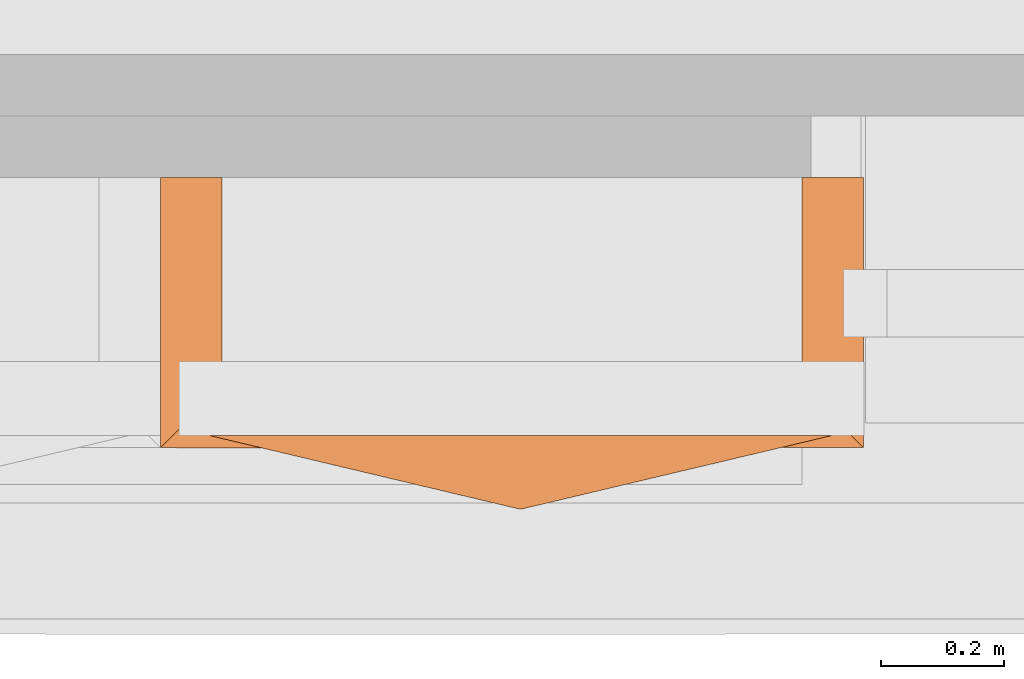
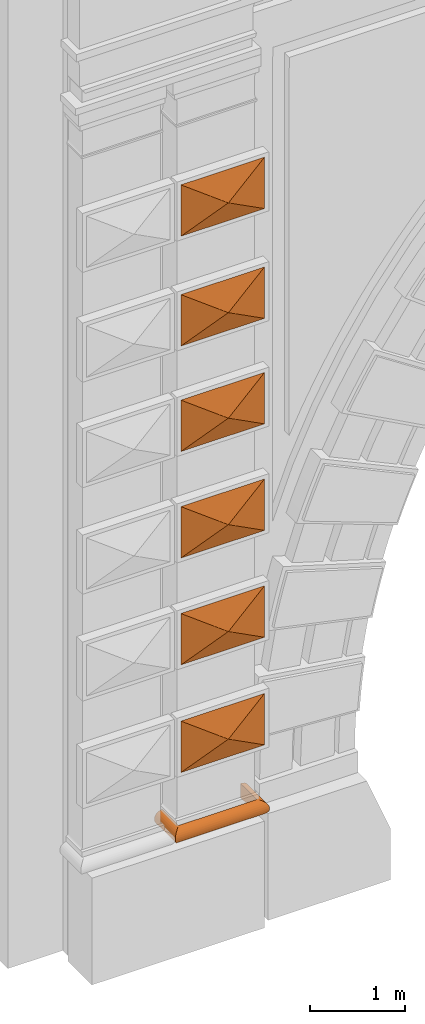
# One storey, part 19 of 44: 7 proxies.
"""IFC2X3 building model written with IfcOpenShell, lengths in metres."""

from ifc_helpers import new_model, entity, si_unit, converted_unit, derived_unit, direction, frame, origin, place, context, subcontext, project, spatial, faceted_brep, material, element, save


model = new_model("IFC2X3")

# Units and contexts
model_context = context("Model", 3, precision=1e-05, world=origin(), true_north=direction((6.12303176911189e-17, 1.0)))
body_context = subcontext(model_context, "Body", "Model", "MODEL_VIEW")
ifc_project = project(units=[si_unit("LENGTHUNIT", "METRE"), si_unit("AREAUNIT", "SQUARE_METRE"), si_unit("VOLUMEUNIT", "CUBIC_METRE"), converted_unit("PLANEANGLEUNIT", "DEGREE", entity("IfcRatioMeasure", 0.0174532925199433), si_unit("PLANEANGLEUNIT", "RADIAN"), dimensions=[0, 0, 0, 0, 0, 0, 0]), si_unit("MASSUNIT", "GRAM", prefix="KILO"), derived_unit("MASSDENSITYUNIT", [(si_unit("MASSUNIT", "GRAM", prefix="KILO"), 1), (si_unit("LENGTHUNIT", "METRE"), -3)]), si_unit("TIMEUNIT", "SECOND"), si_unit("FREQUENCYUNIT", "HERTZ"), si_unit("THERMODYNAMICTEMPERATUREUNIT", "DEGREE_CELSIUS"), derived_unit("THERMALTRANSMITTANCEUNIT", [(si_unit("MASSUNIT", "GRAM", prefix="KILO"), 1), (si_unit("THERMODYNAMICTEMPERATUREUNIT", "KELVIN"), -1), (si_unit("TIMEUNIT", "SECOND"), -3)]), derived_unit("VOLUMETRICFLOWRATEUNIT", [(si_unit("LENGTHUNIT", "METRE"), 3), (si_unit("TIMEUNIT", "SECOND"), -1)]), si_unit("ELECTRICCURRENTUNIT", "AMPERE"), si_unit("ELECTRICVOLTAGEUNIT", "VOLT"), si_unit("POWERUNIT", "WATT"), si_unit("FORCEUNIT", "NEWTON", prefix="KILO"), si_unit("ILLUMINANCEUNIT", "LUX"), si_unit("LUMINOUSFLUXUNIT", "LUMEN"), si_unit("LUMINOUSINTENSITYUNIT", "CANDELA"), derived_unit("USERDEFINED", [(si_unit("MASSUNIT", "GRAM", prefix="KILO"), -1), (si_unit("LENGTHUNIT", "METRE"), -2), (si_unit("TIMEUNIT", "SECOND"), 3), (si_unit("LUMINOUSFLUXUNIT", "LUMEN"), 1)]), derived_unit("LINEARVELOCITYUNIT", [(si_unit("LENGTHUNIT", "METRE"), 1), (si_unit("TIMEUNIT", "SECOND"), -1)]), si_unit("PRESSUREUNIT", "PASCAL"), derived_unit("USERDEFINED", [(si_unit("LENGTHUNIT", "METRE"), -2), (si_unit("MASSUNIT", "GRAM", prefix="KILO"), 1), (si_unit("TIMEUNIT", "SECOND"), -2)])], contexts=[model_context])

# Site, building, storey
site_placement = place(None, origin())
site = spatial("IfcSite", under=ifc_project, at=site_placement, Name="Default", CompositionType="ELEMENT")
building_placement = place(site_placement, origin())
building = spatial("IfcBuilding", under=site, at=building_placement, CompositionType="ELEMENT")
storey_placement = place(building_placement, origin())
storey = spatial("IfcBuildingStorey", under=building, at=storey_placement, Name="Livello 1", CompositionType="ELEMENT", Elevation=0.0)

# Proxies
ifc_material_1 = material(Name="Travertino")
proxy_1_placement = place(storey_placement, frame((-10.4637663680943, -0.776050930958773, 1.36642590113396)))
element("IfcBuildingElementProxy", 1, at=proxy_1_placement, inside=storey, material=ifc_material_1, Name="Stratigrafia", context=body_context, shape_type="Brep", body=[
    faceted_brep([(0.07821631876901, 0.441583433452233, 0.00192470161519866), (0.0557157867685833, 0.441583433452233, 0.00823791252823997), (0.0355879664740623, 0.441583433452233, 0.0201123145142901), (0.0191801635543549, 0.441583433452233, 0.0367530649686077), (0.0075906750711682, 0.441583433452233, 0.0570462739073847), (0.00159527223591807, 0.441583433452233, 0.0796335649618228), (0.00159527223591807, 0.441583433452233, 0.103003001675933), (0.00759067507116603, 0.441583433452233, 0.125590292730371), (0.0191801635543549, 0.441583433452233, 0.145883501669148), (0.0355879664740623, 0.441583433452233, 0.162524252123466), (0.0557157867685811, 0.441583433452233, 0.174398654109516), (0.07821631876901, 0.441583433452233, 0.180711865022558), (0.101583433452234, 0.441583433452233, 0.181041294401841), (0.101583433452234, 0.441583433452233, 0.0015952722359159), (1.04559604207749, 0.441583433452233, 0.0015952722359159), (1.04559604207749, 0.441583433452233, 0.181041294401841), (1.06896315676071, 0.441583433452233, 0.180711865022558), (1.09146368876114, 0.441583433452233, 0.174398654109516), (1.11159150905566, 0.441583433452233, 0.162524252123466), (1.12799931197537, 0.441583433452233, 0.145883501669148), (1.13958880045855, 0.441583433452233, 0.125590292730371), (1.1455842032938, 0.441583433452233, 0.103003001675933), (1.1455842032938, 0.441583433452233, 0.0796335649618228), (1.13958880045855, 0.441583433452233, 0.0570462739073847), (1.12799931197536, 0.441583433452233, 0.0367530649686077), (1.11159150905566, 0.441583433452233, 0.0201123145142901), (1.09146368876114, 0.441583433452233, 0.00823791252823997), (1.06896315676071, 0.441583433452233, 0.00192470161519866), (0.101583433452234, 0.101583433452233, 0.181041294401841), (0.101583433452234, 0.101583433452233, 0.0015952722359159), (0.07821631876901, 0.0782163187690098, 0.00192470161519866), (0.0557157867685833, 0.0557157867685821, 0.00823791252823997), (0.0191801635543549, 0.0191801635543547, 0.0367530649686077), (0.0075906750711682, 0.00759067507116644, 0.0570462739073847), (0.0355879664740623, 0.0355879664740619, 0.0201123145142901), (0.00159527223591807, 0.00159527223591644, 0.0796335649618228), (0.00159527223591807, 0.00159527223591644, 0.103003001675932), (0.00759067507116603, 0.00759067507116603, 0.12559029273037), (0.0191801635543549, 0.0191801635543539, 0.145883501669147), (0.0355879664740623, 0.0355879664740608, 0.162524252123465), (0.0557157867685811, 0.0557157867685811, 0.174398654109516), (0.07821631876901, 0.0782163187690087, 0.180711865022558), (0.551583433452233, 0.101583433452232, 0.181041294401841), (1.00158343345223, 0.101583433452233, 0.181041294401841), (1.04559604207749, 0.101583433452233, 0.181041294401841), (1.04559604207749, 0.101583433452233, 0.0015952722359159), (1.00158343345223, 0.101583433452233, 0.0015952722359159), (0.55158299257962, 0.101583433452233, 0.0015952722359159), (0.632481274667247, 0.0839762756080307, 0.00127843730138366), (1.00158343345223, 0.0782163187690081, 0.180711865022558), (0.448867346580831, 0.0841064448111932, 0.18136842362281), (0.539899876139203, 0.0667610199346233, 0.178286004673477), (0.539899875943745, 0.0667610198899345, 0.00435056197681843), (1.00158343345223, 0.07821631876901, 0.00192470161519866), (1.00158343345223, 0.0557157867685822, 0.00823791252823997), (0.518585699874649, 0.0268436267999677, 0.0278998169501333), (1.00158343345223, 0.0191801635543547, 0.0367530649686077), (0.560796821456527, 0.0127263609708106, 0.0465232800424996), (1.00158343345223, 0.035587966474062, 0.0201123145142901), (0.518585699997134, 0.026843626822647, 0.154736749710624), (1.00158343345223, 0.0355879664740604, 0.162524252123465), (0.56225355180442, 0.0452662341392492, 0.169115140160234), (0.562253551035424, 0.0452662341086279, 0.0135214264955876), (1.00158343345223, 0.00759067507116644, 0.0570462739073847), (1.00158343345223, 0.00159527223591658, 0.0796335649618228), (0.504587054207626, 0.00385941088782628, 0.0681452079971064), (1.00158343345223, 0.00159527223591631, 0.103003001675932), (0.559410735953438, 0.000836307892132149, 0.0913182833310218), (0.504587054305, 0.00385941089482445, 0.114491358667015), (1.00158343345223, 0.0191801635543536, 0.145883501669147), (0.560796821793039, 0.0127263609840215, 0.136113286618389), (1.00158343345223, 0.00759067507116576, 0.12559029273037), (1.00158343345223, 0.0557157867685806, 0.174398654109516), (1.06896315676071, 0.0782163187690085, 0.180711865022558), (1.06896315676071, 0.0782163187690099, 0.00192470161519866), (1.09146368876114, 0.0557157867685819, 0.00823791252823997), (1.12799931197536, 0.0191801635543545, 0.0367530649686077), (1.13958880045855, 0.00759067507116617, 0.0570462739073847), (1.11159150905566, 0.0355879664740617, 0.0201123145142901), (1.1455842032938, 0.00159527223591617, 0.0796335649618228), (1.1455842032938, 0.00159527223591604, 0.103003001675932), (1.13958880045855, 0.00759067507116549, 0.12559029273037), (1.12799931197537, 0.0191801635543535, 0.145883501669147), (1.11159150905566, 0.0355879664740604, 0.162524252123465), (1.09146368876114, 0.0557157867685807, 0.174398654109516)], [[[0, 1, 2, 3, 4, 5, 6, 7, 8, 9, 10, 11, 12, 13]], [[14, 15, 16, 17, 18, 19, 20, 21, 22, 23, 24, 25, 26, 27]], [[13, 12, 28, 29]], [[30, 0, 13, 29]], [[31, 1, 0, 30]], [[32, 33, 4, 3]], [[3, 2, 34, 32]], [[34, 2, 1, 31]], [[35, 5, 4, 33]], [[35, 36, 6, 5]], [[6, 36, 37, 7]], [[38, 8, 7, 37]], [[9, 39, 40, 10]], [[40, 41, 11, 10]], [[39, 9, 8, 38]], [[11, 41, 28, 12]], [[29, 28, 42, 43, 44, 45, 46, 47]], [[48, 30, 29]], [[49, 50, 51]], [[46, 48, 29, 47]], [[52, 53, 54]], [[55, 56, 57]], [[42, 50, 49]], [[58, 56, 55]], [[59, 60, 61]], [[62, 52, 54]], [[40, 61, 51]], [[30, 48, 52]], [[63, 64, 65]], [[58, 55, 62]], [[48, 53, 52]], [[35, 33, 65]], [[64, 66, 67]], [[36, 68, 37]], [[34, 31, 62]], [[32, 34, 55]], [[32, 55, 57]], [[52, 62, 31]], [[56, 63, 57]], [[57, 33, 32]], [[69, 59, 70]], [[35, 65, 67]], [[28, 50, 42]], [[68, 66, 71]], [[53, 48, 46]], [[69, 70, 71]], [[72, 49, 51]], [[63, 65, 57]], [[61, 60, 72]], [[38, 70, 59]], [[59, 69, 60]], [[57, 65, 33]], [[68, 71, 70]], [[42, 49, 73, 44, 43]], [[67, 36, 35]], [[37, 68, 70]], [[54, 58, 62]], [[38, 59, 39]], [[66, 68, 67]], [[39, 59, 61]], [[50, 28, 41]], [[70, 38, 37]], [[40, 51, 41]], [[61, 40, 39]], [[51, 50, 41]], [[31, 30, 52]], [[36, 67, 68]], [[64, 67, 65]], [[62, 55, 34]], [[72, 51, 61]], [[74, 53, 46, 45]], [[75, 54, 53, 74]], [[76, 77, 63, 56]], [[56, 58, 78, 76]], [[78, 58, 54, 75]], [[79, 64, 63, 77]], [[79, 80, 66, 64]], [[66, 80, 81, 71]], [[82, 69, 71, 81]], [[60, 83, 84, 72]], [[84, 73, 49, 72]], [[83, 60, 69, 82]], [[45, 44, 15, 14]], [[45, 14, 27, 74]], [[26, 75, 74, 27]], [[24, 23, 77, 76]], [[78, 25, 24, 76]], [[75, 26, 25, 78]], [[77, 23, 22, 79]], [[22, 21, 80, 79]], [[81, 80, 21, 20]], [[19, 82, 81, 20]], [[17, 16, 73, 84]], [[84, 83, 18, 17]], [[83, 82, 19, 18]], [[44, 73, 16, 15]]]),
])
ifc_material_2 = material(Name="Piperno")
proxy_2_placement = place(storey_placement, frame((-10.3830724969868, -0.87446749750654, 2.27958831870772)))
element("IfcBuildingElementProxy", 2, at=proxy_2_placement, inside=storey, material=ifc_material_2, Name="Stratigrafia", context=body_context, shape_type="Brep", body=[
    faceted_brep([(0.505641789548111, 0.0, 0.323456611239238), (0.505993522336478, 0.0, 0.32310487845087), (0.506345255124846, 0.0, 0.322753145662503), (0.506683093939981, 0.0, 0.322415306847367), (0.507203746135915, 0.0, 0.322935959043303), (0.507372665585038, 0.0, 0.323104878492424), (0.507724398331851, 0.0, 0.323456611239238), (0.507263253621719, 0.0, 0.323917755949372), (0.506683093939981, 0.0, 0.324497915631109), (0.506162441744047, 0.0, 0.323977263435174), (1.01413065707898, 0.12, 0.0), (0.842853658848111, 0.12, 0.0), (0.760597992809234, 0.12, 0.0), (0.507065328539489, 0.12, 0.0), (0.253532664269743, 0.12, 0.0), (0.171276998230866, 0.12, 0.0), (0.0, 0.12, 0.0), (0.0, 0.12, 0.65945975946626), (0.253532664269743, 0.12, 0.65945975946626), (0.507065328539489, 0.12, 0.65945975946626), (0.760597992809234, 0.12, 0.65945975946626), (1.01413065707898, 0.12, 0.65945975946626), (0.672736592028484, 0.0624385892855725, 0.498562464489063), (0.570456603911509, 0.0600000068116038, 0.49193922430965), (0.468888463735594, 0.0599999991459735, 0.491964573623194), (0.302298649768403, 0.048257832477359, 0.458579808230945), (0.810480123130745, 0.0717421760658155, 0.524336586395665), (0.374588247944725, 0.0600000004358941, 0.491814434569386), (0.198208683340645, 0.0729606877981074, 0.126793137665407), (0.465615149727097, 0.0600000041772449, 0.161224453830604), (0.546734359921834, 0.059999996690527, 0.161223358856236), (0.396548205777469, 0.0569466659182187, 0.169546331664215), (0.691854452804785, 0.0603313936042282, 0.160617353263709), (0.618950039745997, 0.0600000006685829, 0.161327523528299), (0.327782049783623, 0.0576525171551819, 0.167835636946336), (0.706232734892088, 0.0470393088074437, 0.196663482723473)], [[[0, 1, 2, 3, 4, 5, 6, 7, 8, 9]], [[10, 11, 12, 13, 14, 15, 16, 17, 18, 19, 20, 21]], [[22, 21, 20]], [[23, 20, 19]], [[24, 8, 23]], [[9, 25, 0]], [[24, 23, 19]], [[6, 26, 21, 22]], [[20, 23, 22]], [[7, 23, 8]], [[27, 9, 24]], [[24, 18, 27]], [[24, 19, 18]], [[23, 7, 22]], [[9, 8, 24]], [[17, 25, 27]], [[6, 22, 7]], [[17, 27, 18]], [[25, 9, 27]], [[25, 17, 16, 28, 0]], [[29, 13, 30]], [[2, 31, 29]], [[32, 33, 11]], [[30, 33, 4]], [[32, 5, 33]], [[3, 2, 29]], [[3, 29, 30]], [[14, 31, 15]], [[28, 16, 15]], [[14, 13, 29]], [[12, 30, 13]], [[4, 3, 30]], [[29, 31, 14]], [[2, 1, 31]], [[34, 15, 31]], [[28, 34, 0]], [[34, 31, 1]], [[0, 34, 1]], [[15, 34, 28]], [[32, 10, 35]], [[30, 12, 33]], [[12, 11, 33]], [[35, 6, 5]], [[4, 33, 5]], [[10, 32, 11]], [[5, 32, 35]], [[10, 21, 26, 6, 35]]]),
])
proxy_3_placement = place(storey_placement, frame((-10.3830724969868, -0.87446749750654, 3.65810765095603)))
element("IfcBuildingElementProxy", 3, at=proxy_3_placement, inside=storey, material=ifc_material_2, Name="Stratigrafia", context=body_context, shape_type="Brep", body=[
    faceted_brep([(0.505641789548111, 0.0, 0.323456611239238), (0.505993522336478, 0.0, 0.323104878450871), (0.506345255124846, 0.0, 0.322753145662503), (0.506683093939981, 0.0, 0.322415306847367), (0.507203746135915, 0.0, 0.322935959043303), (0.507372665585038, 0.0, 0.323104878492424), (0.507724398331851, 0.0, 0.323456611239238), (0.507263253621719, 0.0, 0.323917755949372), (0.506683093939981, 0.0, 0.324497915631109), (0.506162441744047, 0.0, 0.323977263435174), (1.01413065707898, 0.12, 0.0), (0.842853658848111, 0.12, 0.0), (0.760597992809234, 0.12, 0.0), (0.507065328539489, 0.12, 0.0), (0.253532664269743, 0.12, 0.0), (0.171276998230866, 0.12, 0.0), (0.0, 0.12, 0.0), (0.0, 0.12, 0.65945975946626), (0.253532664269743, 0.12, 0.65945975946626), (0.507065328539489, 0.12, 0.65945975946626), (0.760597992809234, 0.12, 0.65945975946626), (1.01413065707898, 0.12, 0.65945975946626), (0.672736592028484, 0.0624385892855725, 0.498562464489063), (0.570456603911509, 0.0600000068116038, 0.49193922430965), (0.468888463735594, 0.0599999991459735, 0.491964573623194), (0.302298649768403, 0.048257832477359, 0.458579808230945), (0.810480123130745, 0.0717421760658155, 0.524336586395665), (0.374588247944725, 0.0600000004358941, 0.491814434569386), (0.198208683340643, 0.0729606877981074, 0.126793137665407), (0.465615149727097, 0.0600000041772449, 0.161224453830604), (0.546734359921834, 0.059999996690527, 0.161223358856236), (0.396548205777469, 0.0569466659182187, 0.169546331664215), (0.691854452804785, 0.0603313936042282, 0.160617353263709), (0.618950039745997, 0.0600000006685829, 0.161327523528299), (0.327782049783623, 0.0576525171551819, 0.167835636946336), (0.706232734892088, 0.0470393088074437, 0.196663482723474)], [[[0, 1, 2, 3, 4, 5, 6, 7, 8, 9]], [[10, 11, 12, 13, 14, 15, 16, 17, 18, 19, 20, 21]], [[22, 21, 20]], [[23, 20, 19]], [[24, 8, 23]], [[9, 25, 0]], [[24, 23, 19]], [[6, 26, 21, 22]], [[20, 23, 22]], [[7, 23, 8]], [[27, 9, 24]], [[24, 18, 27]], [[24, 19, 18]], [[23, 7, 22]], [[9, 8, 24]], [[17, 25, 27]], [[6, 22, 7]], [[17, 27, 18]], [[25, 9, 27]], [[25, 17, 16, 28, 0]], [[29, 13, 30]], [[2, 31, 29]], [[32, 33, 11]], [[30, 33, 4]], [[32, 5, 33]], [[3, 2, 29]], [[3, 29, 30]], [[14, 31, 15]], [[28, 16, 15]], [[14, 13, 29]], [[12, 30, 13]], [[4, 3, 30]], [[29, 31, 14]], [[2, 1, 31]], [[34, 15, 31]], [[28, 34, 0]], [[34, 31, 1]], [[0, 34, 1]], [[15, 34, 28]], [[32, 10, 35]], [[30, 12, 33]], [[12, 11, 33]], [[35, 6, 5]], [[4, 33, 5]], [[10, 32, 11]], [[5, 32, 35]], [[10, 21, 26, 6, 35]]]),
])
proxy_4_placement = place(storey_placement, frame((-10.3830724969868, -0.87446749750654, 5.02776449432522)))
element("IfcBuildingElementProxy", 4, at=proxy_4_placement, inside=storey, material=ifc_material_2, Name="Stratigrafia", context=body_context, shape_type="Brep", body=[
    faceted_brep([(0.505641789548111, 0.0, 0.323456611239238), (0.505993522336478, 0.0, 0.323104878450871), (0.506345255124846, 0.0, 0.322753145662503), (0.506683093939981, 0.0, 0.322415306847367), (0.507203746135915, 0.0, 0.322935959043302), (0.507372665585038, 0.0, 0.323104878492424), (0.507724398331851, 0.0, 0.323456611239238), (0.507263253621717, 0.0, 0.323917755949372), (0.506683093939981, 0.0, 0.324497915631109), (0.506162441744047, 0.0, 0.323977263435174), (1.01413065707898, 0.12, 0.0), (0.842853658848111, 0.12, 0.0), (0.760597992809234, 0.12, 0.0), (0.507065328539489, 0.12, 0.0), (0.253532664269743, 0.12, 0.0), (0.171276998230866, 0.12, 0.0), (0.0, 0.12, 0.0), (0.0, 0.12, 0.65945975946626), (0.253532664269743, 0.12, 0.65945975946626), (0.507065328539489, 0.12, 0.65945975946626), (0.760597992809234, 0.12, 0.65945975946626), (1.01413065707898, 0.12, 0.65945975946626), (0.672736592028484, 0.0624385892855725, 0.498562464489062), (0.570456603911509, 0.0600000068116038, 0.49193922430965), (0.468888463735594, 0.0599999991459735, 0.491964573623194), (0.302298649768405, 0.048257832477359, 0.458579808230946), (0.810480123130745, 0.0717421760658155, 0.524336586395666), (0.374588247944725, 0.0600000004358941, 0.491814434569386), (0.198208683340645, 0.0729606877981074, 0.126793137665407), (0.465615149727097, 0.0600000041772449, 0.161224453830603), (0.546734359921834, 0.059999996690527, 0.161223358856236), (0.396548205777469, 0.0569466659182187, 0.169546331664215), (0.691854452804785, 0.0603313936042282, 0.16061735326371), (0.618950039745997, 0.0600000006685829, 0.1613275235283), (0.327782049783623, 0.0576525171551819, 0.167835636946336), (0.706232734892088, 0.0470393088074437, 0.196663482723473)], [[[0, 1, 2, 3, 4, 5, 6, 7, 8, 9]], [[10, 11, 12, 13, 14, 15, 16, 17, 18, 19, 20, 21]], [[22, 21, 20]], [[23, 20, 19]], [[24, 8, 23]], [[9, 25, 0]], [[24, 23, 19]], [[6, 26, 21, 22]], [[20, 23, 22]], [[7, 23, 8]], [[27, 9, 24]], [[24, 18, 27]], [[24, 19, 18]], [[23, 7, 22]], [[9, 8, 24]], [[17, 25, 27]], [[6, 22, 7]], [[17, 27, 18]], [[25, 9, 27]], [[25, 17, 16, 28, 0]], [[29, 13, 30]], [[2, 31, 29]], [[32, 33, 11]], [[30, 33, 4]], [[32, 5, 33]], [[3, 2, 29]], [[3, 29, 30]], [[14, 31, 15]], [[28, 16, 15]], [[14, 13, 29]], [[12, 30, 13]], [[4, 3, 30]], [[29, 31, 14]], [[2, 1, 31]], [[34, 15, 31]], [[28, 34, 0]], [[34, 31, 1]], [[0, 34, 1]], [[15, 34, 28]], [[32, 10, 35]], [[30, 12, 33]], [[12, 11, 33]], [[35, 6, 5]], [[4, 33, 5]], [[10, 32, 11]], [[5, 32, 35]], [[10, 21, 26, 6, 35]]]),
])
proxy_5_placement = place(storey_placement, frame((-10.3830724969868, -0.87446749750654, 6.39218485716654)))
element("IfcBuildingElementProxy", 5, at=proxy_5_placement, inside=storey, material=ifc_material_2, Name="Stratigrafia", context=body_context, shape_type="Brep", body=[
    faceted_brep([(0.505641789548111, 0.0, 0.323456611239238), (0.505993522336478, 0.0, 0.323104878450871), (0.506345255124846, 0.0, 0.322753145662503), (0.506683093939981, 0.0, 0.322415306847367), (0.507203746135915, 0.0, 0.322935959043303), (0.507372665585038, 0.0, 0.323104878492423), (0.507724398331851, 0.0, 0.323456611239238), (0.507263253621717, 0.0, 0.323917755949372), (0.506683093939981, 0.0, 0.324497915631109), (0.506162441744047, 0.0, 0.323977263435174), (1.01413065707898, 0.12, 0.0), (0.842853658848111, 0.12, 0.0), (0.760597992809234, 0.12, 0.0), (0.507065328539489, 0.12, 0.0), (0.253532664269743, 0.12, 0.0), (0.171276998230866, 0.12, 0.0), (0.0, 0.12, 0.0), (0.0, 0.12, 0.65945975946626), (0.253532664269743, 0.12, 0.65945975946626), (0.507065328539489, 0.12, 0.65945975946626), (0.760597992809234, 0.12, 0.65945975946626), (1.01413065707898, 0.12, 0.65945975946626), (0.672736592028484, 0.0624385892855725, 0.498562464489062), (0.570456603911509, 0.0600000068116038, 0.49193922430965), (0.468888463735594, 0.0599999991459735, 0.491964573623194), (0.302298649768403, 0.048257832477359, 0.458579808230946), (0.810480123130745, 0.0717421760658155, 0.524336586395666), (0.374588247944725, 0.0600000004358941, 0.491814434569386), (0.198208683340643, 0.0729606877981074, 0.126793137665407), (0.465615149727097, 0.0600000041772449, 0.161224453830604), (0.546734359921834, 0.059999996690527, 0.161223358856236), (0.396548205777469, 0.0569466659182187, 0.169546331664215), (0.691854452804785, 0.0603313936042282, 0.16061735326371), (0.618950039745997, 0.0600000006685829, 0.1613275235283), (0.327782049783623, 0.0576525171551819, 0.167835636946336), (0.706232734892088, 0.0470393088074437, 0.196663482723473)], [[[0, 1, 2, 3, 4, 5, 6, 7, 8, 9]], [[10, 11, 12, 13, 14, 15, 16, 17, 18, 19, 20, 21]], [[22, 21, 20]], [[23, 20, 19]], [[24, 8, 23]], [[9, 25, 0]], [[24, 23, 19]], [[6, 26, 21, 22]], [[20, 23, 22]], [[7, 23, 8]], [[27, 9, 24]], [[24, 18, 27]], [[24, 19, 18]], [[23, 7, 22]], [[9, 8, 24]], [[17, 25, 27]], [[6, 22, 7]], [[17, 27, 18]], [[25, 9, 27]], [[25, 17, 16, 28, 0]], [[29, 13, 30]], [[2, 31, 29]], [[32, 33, 11]], [[30, 33, 4]], [[32, 5, 33]], [[3, 2, 29]], [[3, 29, 30]], [[14, 31, 15]], [[28, 16, 15]], [[14, 13, 29]], [[12, 30, 13]], [[4, 3, 30]], [[29, 31, 14]], [[2, 1, 31]], [[34, 15, 31]], [[28, 34, 0]], [[34, 31, 1]], [[0, 34, 1]], [[15, 34, 28]], [[32, 10, 35]], [[30, 12, 33]], [[12, 11, 33]], [[35, 6, 5]], [[4, 33, 5]], [[10, 32, 11]], [[5, 32, 35]], [[10, 21, 26, 6, 35]]]),
])
proxy_6_placement = place(storey_placement, frame((-10.3830724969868, -0.87446749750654, 7.74389204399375)))
element("IfcBuildingElementProxy", 6, at=proxy_6_placement, inside=storey, material=ifc_material_2, Name="Stratigrafia", context=body_context, shape_type="Brep", body=[
    faceted_brep([(0.505641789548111, 0.0, 0.323456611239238), (0.505993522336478, 0.0, 0.323104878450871), (0.506345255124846, 0.0, 0.322753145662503), (0.506683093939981, 0.0, 0.322415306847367), (0.507203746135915, 0.0, 0.322935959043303), (0.507372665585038, 0.0, 0.323104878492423), (0.507724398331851, 0.0, 0.323456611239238), (0.507263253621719, 0.0, 0.323917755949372), (0.506683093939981, 0.0, 0.324497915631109), (0.506162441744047, 0.0, 0.323977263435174), (1.01413065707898, 0.12, 0.0), (0.842853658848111, 0.12, 0.0), (0.760597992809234, 0.12, 0.0), (0.507065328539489, 0.12, 0.0), (0.253532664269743, 0.12, 0.0), (0.171276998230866, 0.12, 0.0), (0.0, 0.12, 0.0), (0.0, 0.12, 0.65945975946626), (0.253532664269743, 0.12, 0.65945975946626), (0.507065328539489, 0.12, 0.65945975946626), (0.760597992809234, 0.12, 0.65945975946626), (1.01413065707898, 0.12, 0.65945975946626), (0.672736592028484, 0.0624385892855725, 0.498562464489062), (0.570456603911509, 0.0600000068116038, 0.49193922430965), (0.468888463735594, 0.0599999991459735, 0.491964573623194), (0.302298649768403, 0.048257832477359, 0.458579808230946), (0.810480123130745, 0.0717421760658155, 0.524336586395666), (0.374588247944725, 0.0600000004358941, 0.491814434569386), (0.198208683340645, 0.0729606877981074, 0.126793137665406), (0.465615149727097, 0.0600000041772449, 0.161224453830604), (0.546734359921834, 0.059999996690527, 0.161223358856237), (0.396548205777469, 0.0569466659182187, 0.169546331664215), (0.691854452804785, 0.0603313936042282, 0.16061735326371), (0.618950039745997, 0.0600000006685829, 0.1613275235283), (0.327782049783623, 0.0576525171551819, 0.167835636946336), (0.706232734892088, 0.0470393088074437, 0.196663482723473)], [[[0, 1, 2, 3, 4, 5, 6, 7, 8, 9]], [[10, 11, 12, 13, 14, 15, 16, 17, 18, 19, 20, 21]], [[22, 21, 20]], [[23, 20, 19]], [[24, 8, 23]], [[9, 25, 0]], [[24, 23, 19]], [[6, 26, 21, 22]], [[20, 23, 22]], [[7, 23, 8]], [[27, 9, 24]], [[24, 18, 27]], [[24, 19, 18]], [[23, 7, 22]], [[9, 8, 24]], [[17, 25, 27]], [[6, 22, 7]], [[17, 27, 18]], [[25, 9, 27]], [[25, 17, 16, 28, 0]], [[29, 13, 30]], [[2, 31, 29]], [[32, 33, 11]], [[30, 33, 4]], [[32, 5, 33]], [[3, 2, 29]], [[3, 29, 30]], [[14, 31, 15]], [[28, 16, 15]], [[14, 13, 29]], [[12, 30, 13]], [[4, 3, 30]], [[29, 31, 14]], [[2, 1, 31]], [[34, 15, 31]], [[28, 34, 0]], [[34, 31, 1]], [[0, 34, 1]], [[15, 34, 28]], [[32, 10, 35]], [[30, 12, 33]], [[12, 11, 33]], [[35, 6, 5]], [[4, 33, 5]], [[10, 32, 11]], [[5, 32, 35]], [[10, 21, 26, 6, 35]]]),
])
proxy_7_placement = place(storey_placement, frame((-10.3830724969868, -0.87446749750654, 9.15040424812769)))
element("IfcBuildingElementProxy", 7, at=proxy_7_placement, inside=storey, material=ifc_material_2, Name="Stratigrafia", context=body_context, shape_type="Brep", body=[
    faceted_brep([(0.505641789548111, 0.0, 0.323456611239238), (0.505993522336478, 0.0, 0.323104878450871), (0.506345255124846, 0.0, 0.322753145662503), (0.506683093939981, 0.0, 0.322415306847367), (0.507203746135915, 0.0, 0.322935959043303), (0.507372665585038, 0.0, 0.323104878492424), (0.507724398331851, 0.0, 0.323456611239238), (0.507263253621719, 0.0, 0.323917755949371), (0.506683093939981, 0.0, 0.324497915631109), (0.506162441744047, 0.0, 0.323977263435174), (1.01413065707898, 0.12, 0.0), (0.842853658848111, 0.12, 0.0), (0.760597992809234, 0.12, 0.0), (0.507065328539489, 0.12, 0.0), (0.253532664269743, 0.12, 0.0), (0.171276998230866, 0.12, 0.0), (0.0, 0.12, 0.0), (0.0, 0.12, 0.659459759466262), (0.253532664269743, 0.12, 0.659459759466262), (0.507065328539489, 0.12, 0.659459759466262), (0.760597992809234, 0.12, 0.659459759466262), (1.01413065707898, 0.12, 0.659459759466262), (0.672736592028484, 0.0624385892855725, 0.498562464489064), (0.570456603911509, 0.0600000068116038, 0.491939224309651), (0.468888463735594, 0.0599999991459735, 0.491964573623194), (0.302298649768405, 0.048257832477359, 0.458579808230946), (0.810480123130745, 0.0717421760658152, 0.524336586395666), (0.374588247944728, 0.0600000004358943, 0.491814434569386), (0.198208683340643, 0.0729606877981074, 0.126793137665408), (0.465615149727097, 0.0600000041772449, 0.161224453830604), (0.546734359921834, 0.059999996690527, 0.161223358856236), (0.396548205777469, 0.0569466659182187, 0.169546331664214), (0.691854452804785, 0.0603313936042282, 0.160617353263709), (0.618950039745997, 0.0600000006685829, 0.1613275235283), (0.327782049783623, 0.0576525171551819, 0.167835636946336), (0.706232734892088, 0.0470393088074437, 0.196663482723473)], [[[0, 1, 2, 3, 4, 5, 6, 7, 8, 9]], [[10, 11, 12, 13, 14, 15, 16, 17, 18, 19, 20, 21]], [[22, 21, 20]], [[23, 20, 19]], [[24, 8, 23]], [[9, 25, 0]], [[24, 23, 19]], [[6, 26, 21, 22]], [[20, 23, 22]], [[7, 23, 8]], [[27, 9, 24]], [[24, 18, 27]], [[24, 19, 18]], [[23, 7, 22]], [[9, 8, 24]], [[17, 25, 27]], [[6, 22, 7]], [[17, 27, 18]], [[25, 9, 27]], [[25, 17, 16, 28, 0]], [[29, 13, 30]], [[2, 31, 29]], [[32, 33, 11]], [[30, 33, 4]], [[32, 5, 33]], [[3, 2, 29]], [[3, 29, 30]], [[14, 31, 15]], [[28, 16, 15]], [[14, 13, 29]], [[12, 30, 13]], [[4, 3, 30]], [[29, 31, 14]], [[2, 1, 31]], [[34, 15, 31]], [[28, 34, 0]], [[34, 31, 1]], [[0, 34, 1]], [[15, 34, 28]], [[32, 10, 35]], [[30, 12, 33]], [[12, 11, 33]], [[35, 6, 5]], [[4, 33, 5]], [[10, 32, 11]], [[5, 32, 35]], [[10, 21, 26, 6, 35]]]),
])

save(model, "model.ifc")
